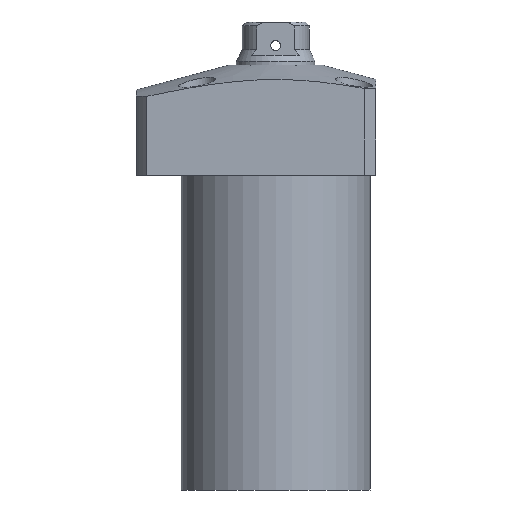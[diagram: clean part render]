
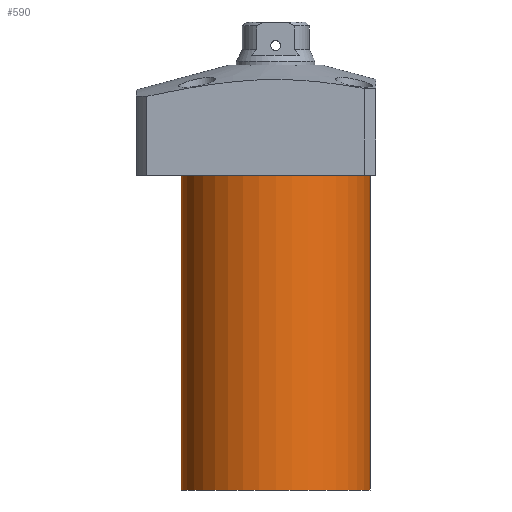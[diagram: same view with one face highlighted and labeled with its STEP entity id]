
A CAD part, front view. The second image highlights one B-rep face of the part: STEP entity #590.
In plain terms, the highlighted cylindrical face has radius 24 mm (diameter 48 mm), a partial arc.
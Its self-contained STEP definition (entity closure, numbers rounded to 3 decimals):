
#39 = DIRECTION ( 'NONE',  ( 0., 0., 1. ) ) ;
#74 = EDGE_CURVE ( 'NONE', #1926, #2058, #842, .T. ) ;
#107 = VERTEX_POINT ( 'NONE', #1343 ) ;
#134 = DIRECTION ( 'NONE',  ( 1., 0., 0. ) ) ;
#217 = DIRECTION ( 'NONE',  ( -1., 0., 0. ) ) ;
#231 = FACE_OUTER_BOUND ( 'NONE', #1162, .T. ) ;
#277 = VERTEX_POINT ( 'NONE', #2467 ) ;
#370 = VECTOR ( 'NONE', #694, 1000. ) ;
#405 = CARTESIAN_POINT ( 'NONE',  ( 24., 0., -14. ) ) ;
#447 = CIRCLE ( 'NONE', #2656, 24. ) ;
#510 = CIRCLE ( 'NONE', #1950, 24. ) ;
#566 = EDGE_CURVE ( 'NONE', #1926, #107, #510, .T. ) ;
#590 = ADVANCED_FACE ( 'NONE', ( #231 ), #1703, .T. ) ;
#684 = CARTESIAN_POINT ( 'NONE',  ( 24., 0., -94. ) ) ;
#694 = DIRECTION ( 'NONE',  ( 0., 0., 1. ) ) ;
#842 = LINE ( 'NONE', #684, #370 ) ;
#857 = CARTESIAN_POINT ( 'NONE',  ( 0., 0., -94. ) ) ;
#880 = DIRECTION ( 'NONE',  ( 1., 0., 0. ) ) ;
#892 = CARTESIAN_POINT ( 'NONE',  ( 0., 0., -94. ) ) ;
#936 = ORIENTED_EDGE ( 'NONE', *, *, #2410, .T. ) ;
#1013 = LINE ( 'NONE', #2363, #1351 ) ;
#1162 = EDGE_LOOP ( 'NONE', ( #1487, #1369, #2450, #936 ) ) ;
#1260 = DIRECTION ( 'NONE',  ( 0., 0., -1. ) ) ;
#1343 = CARTESIAN_POINT ( 'NONE',  ( -24., 0., -94. ) ) ;
#1351 = VECTOR ( 'NONE', #2383, 1000. ) ;
#1357 = DIRECTION ( 'NONE',  ( 0., 0., -1. ) ) ;
#1369 = ORIENTED_EDGE ( 'NONE', *, *, #566, .F. ) ;
#1487 = ORIENTED_EDGE ( 'NONE', *, *, #1821, .F. ) ;
#1703 = CYLINDRICAL_SURFACE ( 'NONE', #2592, 24. ) ;
#1821 = EDGE_CURVE ( 'NONE', #107, #277, #1013, .T. ) ;
#1926 = VERTEX_POINT ( 'NONE', #2228 ) ;
#1950 = AXIS2_PLACEMENT_3D ( 'NONE', #857, #1260, #217 ) ;
#2058 = VERTEX_POINT ( 'NONE', #405 ) ;
#2228 = CARTESIAN_POINT ( 'NONE',  ( 24., 0., -94. ) ) ;
#2363 = CARTESIAN_POINT ( 'NONE',  ( -24., 0., -94. ) ) ;
#2383 = DIRECTION ( 'NONE',  ( 0., 0., 1. ) ) ;
#2410 = EDGE_CURVE ( 'NONE', #2058, #277, #447, .T. ) ;
#2450 = ORIENTED_EDGE ( 'NONE', *, *, #74, .T. ) ;
#2467 = CARTESIAN_POINT ( 'NONE',  ( -24., 0., -14. ) ) ;
#2592 = AXIS2_PLACEMENT_3D ( 'NONE', #892, #39, #880 ) ;
#2622 = CARTESIAN_POINT ( 'NONE',  ( 0., 0., -14. ) ) ;
#2656 = AXIS2_PLACEMENT_3D ( 'NONE', #2622, #1357, #134 ) ;
